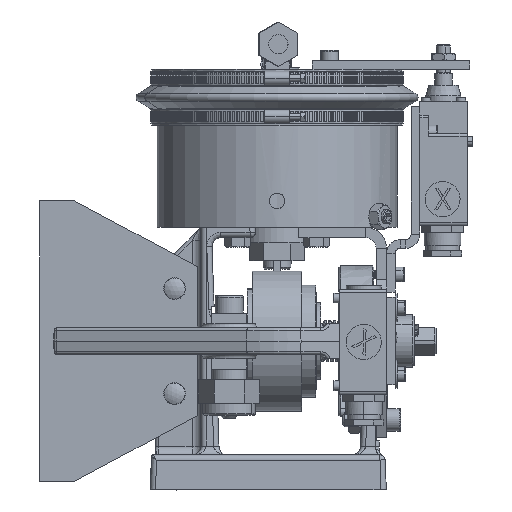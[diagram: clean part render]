
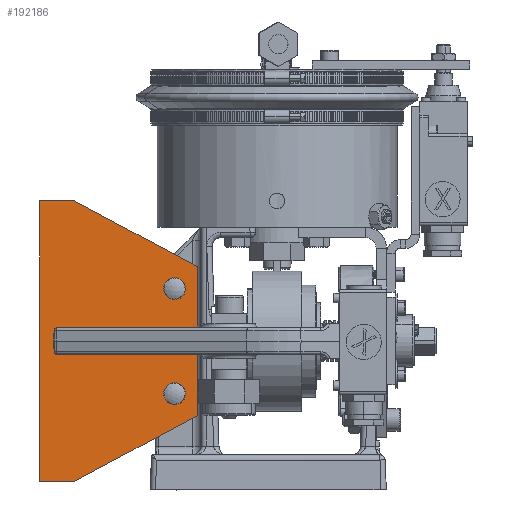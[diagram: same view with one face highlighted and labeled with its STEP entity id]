
A CAD part, front view. The second image highlights one B-rep face of the part: STEP entity #192186.
In plain terms, the highlighted planar face has unit normal (0, -1, 0).
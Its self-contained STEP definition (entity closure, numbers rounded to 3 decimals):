
#191767=DIRECTION('',(0.881,0.,0.472));
#191768=VECTOR('',#191767,79.412);
#191769=CARTESIAN_POINT('',(-145.97,-88.179,
-111.524));
#191770=LINE('',#191769,#191768);
#191774=DIRECTION('',(1.,0.,0.));
#191775=VECTOR('',#191774,20.);
#191776=CARTESIAN_POINT('',(-165.97,-88.179,
-111.524));
#191777=LINE('',#191776,#191775);
#191781=DIRECTION('',(0.,0.,-1.));
#191782=VECTOR('',#191781,160.);
#191783=CARTESIAN_POINT('',(-165.97,-88.179,
48.476));
#191784=LINE('',#191783,#191782);
#191788=DIRECTION('',(-1.,0.,0.));
#191789=VECTOR('',#191788,20.);
#191790=CARTESIAN_POINT('',(-145.97,-88.179,
48.476));
#191791=LINE('',#191790,#191789);
#191795=DIRECTION('',(-0.881,0.,0.472));
#191796=VECTOR('',#191795,79.412);
#191797=CARTESIAN_POINT('',(-75.97,-88.179,
10.976));
#191798=LINE('',#191797,#191796);
#191802=DIRECTION('',(0.,0.,1.));
#191803=VECTOR('',#191802,85.);
#191804=CARTESIAN_POINT('',(-75.97,-88.179,
-74.024));
#191805=LINE('',#191804,#191803);
#191809=CARTESIAN_POINT('',(-88.97,-88.179,
-61.524));
#191810=DIRECTION('',(0.,1.,0.));
#191811=DIRECTION('',(-1.,0.,0.));
#191812=AXIS2_PLACEMENT_3D('',#191809,#191810,#191811);
#191817=CARTESIAN_POINT('',(-88.97,-88.179,
-61.524));
#191818=DIRECTION('',(0.,1.,0.));
#191819=DIRECTION('',(1.,0.,0.));
#191820=AXIS2_PLACEMENT_3D('',#191817,#191818,#191819);
#191825=CARTESIAN_POINT('',(-88.97,-88.179,
-1.524));
#191826=DIRECTION('',(0.,1.,0.));
#191827=DIRECTION('',(-1.,0.,0.));
#191828=AXIS2_PLACEMENT_3D('',#191825,#191826,#191827);
#191833=CARTESIAN_POINT('',(-88.97,-88.179,
-1.524));
#191834=DIRECTION('',(0.,1.,0.));
#191835=DIRECTION('',(1.,0.,0.));
#191836=AXIS2_PLACEMENT_3D('',#191833,#191834,#191835);
#192005=CARTESIAN_POINT('',(-165.97,-88.179,
-111.524));
#192006=CARTESIAN_POINT('',(-145.97,-88.179,
-111.524));
#192007=VERTEX_POINT('',#192005);
#192008=VERTEX_POINT('',#192006);
#192013=CARTESIAN_POINT('',(-145.97,-88.179,
48.476));
#192014=CARTESIAN_POINT('',(-165.97,-88.179,
48.476));
#192015=VERTEX_POINT('',#192013);
#192016=VERTEX_POINT('',#192014);
#192021=CARTESIAN_POINT('',(-95.22,-88.179,
-1.524));
#192023=VERTEX_POINT('',#192021);
#192027=CARTESIAN_POINT('',(-75.97,-88.179,
-74.024));
#192028=VERTEX_POINT('',#192027);
#192031=CARTESIAN_POINT('',(-82.72,-88.179,
-1.524));
#192032=VERTEX_POINT('',#192031);
#192037=CARTESIAN_POINT('',(-95.22,-88.179,
-61.524));
#192038=CARTESIAN_POINT('',(-82.72,-88.179,
-61.524));
#192039=VERTEX_POINT('',#192037);
#192040=VERTEX_POINT('',#192038);
#192043=CARTESIAN_POINT('',(-75.97,-88.179,
10.976));
#192045=VERTEX_POINT('',#192043);
#192156=CARTESIAN_POINT('',(-165.97,-88.179,
-122.238));
#192157=DIRECTION('',(0.,1.,0.));
#192158=DIRECTION('',(1.,0.,0.));
#192159=AXIS2_PLACEMENT_3D('',#192156,#192157,#192158);
#192160=PLANE('',#192159);
#192161=ORIENTED_EDGE('',*,*,#192139,.F.);
#192163=ORIENTED_EDGE('',*,*,#192162,.F.);
#192165=ORIENTED_EDGE('',*,*,#192164,.F.);
#192167=ORIENTED_EDGE('',*,*,#192166,.F.);
#192169=ORIENTED_EDGE('',*,*,#192168,.F.);
#192171=ORIENTED_EDGE('',*,*,#192170,.F.);
#192172=EDGE_LOOP('',(#192161,#192163,#192165,#192167,#192169,#192171));
#192173=FACE_OUTER_BOUND('',#192172,.F.);
#192175=ORIENTED_EDGE('',*,*,#192174,.F.);
#192177=ORIENTED_EDGE('',*,*,#192176,.F.);
#192178=EDGE_LOOP('',(#192175,#192177));
#192179=FACE_BOUND('',#192178,.F.);
#192181=ORIENTED_EDGE('',*,*,#192180,.F.);
#192183=ORIENTED_EDGE('',*,*,#192182,.F.);
#192184=EDGE_LOOP('',(#192181,#192183));
#192185=FACE_BOUND('',#192184,.F.);
#192186=ADVANCED_FACE('',(#192173,#192179,#192185),#192160,.F.);
#191813=CIRCLE('',#191812,6.25);
#191821=CIRCLE('',#191820,6.25);
#191829=CIRCLE('',#191828,6.25);
#191837=CIRCLE('',#191836,6.25);
#192139=EDGE_CURVE('',#192008,#192028,#191770,.T.);
#192162=EDGE_CURVE('',#192007,#192008,#191777,.T.);
#192164=EDGE_CURVE('',#192016,#192007,#191784,.T.);
#192166=EDGE_CURVE('',#192015,#192016,#191791,.T.);
#192168=EDGE_CURVE('',#192045,#192015,#191798,.T.);
#192170=EDGE_CURVE('',#192028,#192045,#191805,.T.);
#192174=EDGE_CURVE('',#192039,#192040,#191813,.T.);
#192176=EDGE_CURVE('',#192040,#192039,#191821,.T.);
#192180=EDGE_CURVE('',#192023,#192032,#191829,.T.);
#192182=EDGE_CURVE('',#192032,#192023,#191837,.T.);
